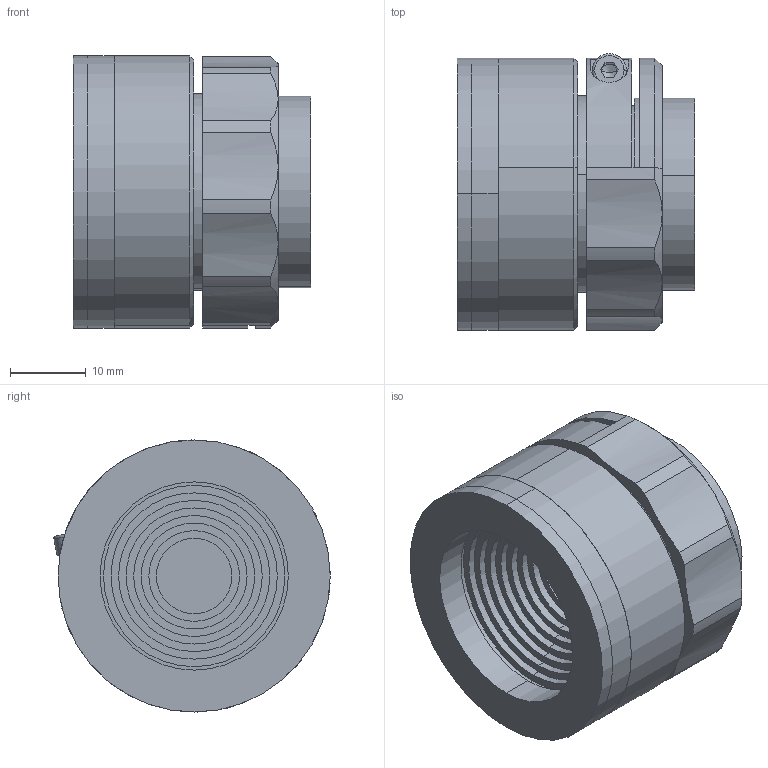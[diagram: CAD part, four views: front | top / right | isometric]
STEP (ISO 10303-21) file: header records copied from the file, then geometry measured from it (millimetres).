
FILE_DESCRIPTION (( 'STEP AP203' ), '1' );
FILE_NAME ('XF-MH03X65.STEP', '2020-11-19T08:20:15', ( 'canrill-02' ), ( '' ), 'SwSTEP 2.0', 'SolidWorks 2014', '' );
FILE_SCHEMA (( 'CONFIG_CONTROL_DESIGN' ));
Length unit declared in the file: millimetre
Products named in the file (1): XF-MH03X65
Bounding box: 31.41 x 36.57 x 36 mm (x, y, z)
Volume: 19737.3 mm3; surface area: 13896.1 mm2
Topology: 3 solids, 4 shells, 162 faces, 365 edges, 231 vertices
Faces by surface type: cylinder 82, plane 61, cone 17, torus 2
Entity records: 4702 total; most frequent: DIRECTION 867, CARTESIAN_POINT 848, ORIENTED_EDGE 722, EDGE_CURVE 361, AXIS2_PLACEMENT_3D 354, VERTEX_POINT 231, EDGE_LOOP 194, CIRCLE 191
